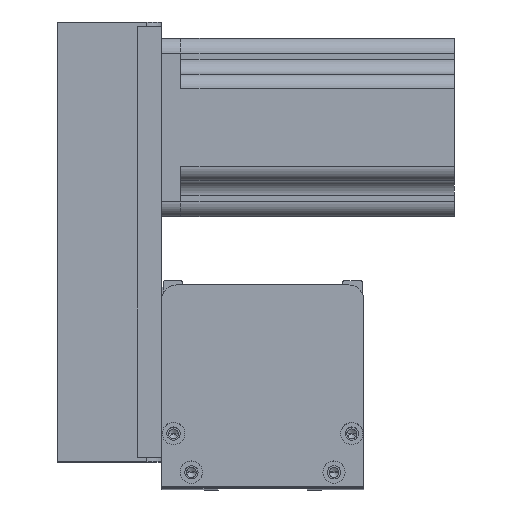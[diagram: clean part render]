
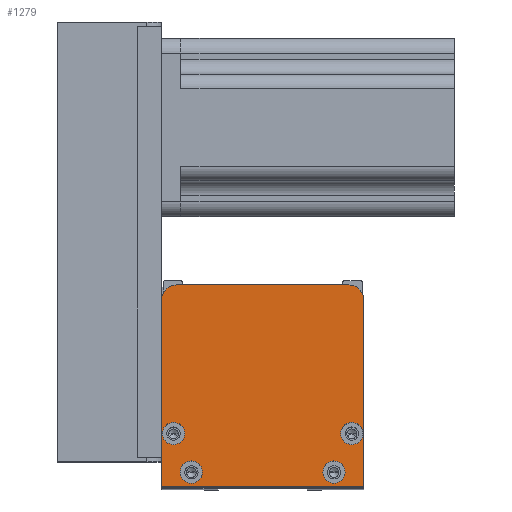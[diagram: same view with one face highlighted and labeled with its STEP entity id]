
A CAD part, top view. The second image highlights one B-rep face of the part: STEP entity #1279.
In plain terms, the highlighted planar face has unit normal (0, 0, 1) as drawn and (0, 0, -1) by its records, which use the part's own axes.
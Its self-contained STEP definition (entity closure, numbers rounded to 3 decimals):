
#50 = CARTESIAN_POINT ( 'NONE',  ( 0.25, 18., 0. ) ) ;
#111 = DIRECTION ( 'NONE',  ( 1., 0., 0. ) ) ;
#195 = EDGE_CURVE ( 'NONE', #14179, #23772, #6618, .T. ) ;
#242 = AXIS2_PLACEMENT_3D ( 'NONE', #729, #13699, #15826 ) ;
#722 = CARTESIAN_POINT ( 'NONE',  ( 68., 0., 0. ) ) ;
#729 = CARTESIAN_POINT ( 'NONE',  ( 63., 63., 0. ) ) ;
#804 = FACE_BOUND ( 'NONE', #20900, .T. ) ;
#842 = VERTEX_POINT ( 'NONE', #4991 ) ;
#1097 = VERTEX_POINT ( 'NONE', #21710 ) ;
#1279 = ADVANCED_FACE ( 'NONE', ( #2574, #804, #6385, #13428, #9869 ), #9552, .F. ) ;
#1364 = CARTESIAN_POINT ( 'NONE',  ( 63., 68., 0. ) ) ;
#1366 = CARTESIAN_POINT ( 'NONE',  ( 0., 0., 0. ) ) ;
#1971 = LINE ( 'NONE', #15690, #12844 ) ;
#2014 = DIRECTION ( 'NONE',  ( 0., 0., -1. ) ) ;
#2167 = EDGE_LOOP ( 'NONE', ( #7457, #4492 ) ) ;
#2266 = VERTEX_POINT ( 'NONE', #22104 ) ;
#2473 = ORIENTED_EDGE ( 'NONE', *, *, #195, .F. ) ;
#2501 = AXIS2_PLACEMENT_3D ( 'NONE', #22787, #15054, #9628 ) ;
#2574 = FACE_BOUND ( 'NONE', #22356, .T. ) ;
#2889 = ORIENTED_EDGE ( 'NONE', *, *, #10527, .F. ) ;
#2919 = EDGE_CURVE ( 'NONE', #11693, #20557, #14547, .T. ) ;
#2930 = EDGE_CURVE ( 'NONE', #15633, #5020, #9562, .T. ) ;
#3208 = AXIS2_PLACEMENT_3D ( 'NONE', #22966, #2014, #22803 ) ;
#3231 = DIRECTION ( 'NONE',  ( 0., 0., -1. ) ) ;
#3304 = CIRCLE ( 'NONE', #16455, 3.75 ) ;
#3601 = DIRECTION ( 'NONE',  ( -1., 0., 0. ) ) ;
#4089 = AXIS2_PLACEMENT_3D ( 'NONE', #21695, #10459, #18009 ) ;
#4216 = EDGE_CURVE ( 'NONE', #842, #16079, #3304, .T. ) ;
#4492 = ORIENTED_EDGE ( 'NONE', *, *, #17359, .F. ) ;
#4943 = CARTESIAN_POINT ( 'NONE',  ( 5., 63., 0. ) ) ;
#4991 = CARTESIAN_POINT ( 'NONE',  ( 6.25, 5., 0. ) ) ;
#5020 = VERTEX_POINT ( 'NONE', #11012 ) ;
#5174 = DIRECTION ( 'NONE',  ( 0., 0., -1. ) ) ;
#5278 = CIRCLE ( 'NONE', #3208, 3.75 ) ;
#5321 = EDGE_CURVE ( 'NONE', #20669, #1097, #7598, .T. ) ;
#5342 = DIRECTION ( 'NONE',  ( 1., 0., 0. ) ) ;
#6247 = EDGE_CURVE ( 'NONE', #17768, #5020, #1971, .T. ) ;
#6385 = FACE_BOUND ( 'NONE', #2167, .T. ) ;
#6618 = CIRCLE ( 'NONE', #4089, 3.75 ) ;
#6846 = DIRECTION ( 'NONE',  ( 1., 0., 0. ) ) ;
#7056 = ORIENTED_EDGE ( 'NONE', *, *, #12737, .F. ) ;
#7075 = CARTESIAN_POINT ( 'NONE',  ( 5., 68., 0. ) ) ;
#7096 = EDGE_CURVE ( 'NONE', #15633, #9650, #10720, .T. ) ;
#7221 = DIRECTION ( 'NONE',  ( -1., 0., 0. ) ) ;
#7457 = ORIENTED_EDGE ( 'NONE', *, *, #4216, .F. ) ;
#7598 = CIRCLE ( 'NONE', #9708, 3.75 ) ;
#7849 = AXIS2_PLACEMENT_3D ( 'NONE', #20615, #22251, #3601 ) ;
#8076 = CARTESIAN_POINT ( 'NONE',  ( 13.75, 5., 0. ) ) ;
#8155 = AXIS2_PLACEMENT_3D ( 'NONE', #23443, #8465, #14113 ) ;
#8284 = EDGE_LOOP ( 'NONE', ( #13421, #9591, #21667, #14129, #17183, #11463 ) ) ;
#8294 = DIRECTION ( 'NONE',  ( -1., 0., 0. ) ) ;
#8465 = DIRECTION ( 'NONE',  ( 0., 0., -1. ) ) ;
#9552 = PLANE ( 'NONE',  #9828 ) ;
#9562 = CIRCLE ( 'NONE', #242, 5. ) ;
#9591 = ORIENTED_EDGE ( 'NONE', *, *, #14036, .T. ) ;
#9628 = DIRECTION ( 'NONE',  ( -1., 0., 0. ) ) ;
#9650 = VERTEX_POINT ( 'NONE', #7075 ) ;
#9708 = AXIS2_PLACEMENT_3D ( 'NONE', #21281, #11970, #8294 ) ;
#9828 = AXIS2_PLACEMENT_3D ( 'NONE', #15374, #20733, #111 ) ;
#9869 = FACE_OUTER_BOUND ( 'NONE', #8284, .T. ) ;
#9872 = VECTOR ( 'NONE', #13535, 1000. ) ;
#9944 = CARTESIAN_POINT ( 'NONE',  ( 0., 63., 0. ) ) ;
#10459 = DIRECTION ( 'NONE',  ( 0., 0., -1. ) ) ;
#10527 = EDGE_CURVE ( 'NONE', #1097, #20669, #5278, .T. ) ;
#10720 = LINE ( 'NONE', #13591, #14845 ) ;
#11012 = CARTESIAN_POINT ( 'NONE',  ( 68., 63., 0. ) ) ;
#11345 = VECTOR ( 'NONE', #5342, 1000. ) ;
#11389 = AXIS2_PLACEMENT_3D ( 'NONE', #14774, #5174, #7221 ) ;
#11463 = ORIENTED_EDGE ( 'NONE', *, *, #16443, .F. ) ;
#11693 = VERTEX_POINT ( 'NONE', #9944 ) ;
#11970 = DIRECTION ( 'NONE',  ( 0., 0., -1. ) ) ;
#12226 = EDGE_CURVE ( 'NONE', #2266, #21971, #18312, .T. ) ;
#12737 = EDGE_CURVE ( 'NONE', #23772, #14179, #21514, .T. ) ;
#12844 = VECTOR ( 'NONE', #19645, 1000. ) ;
#13290 = CIRCLE ( 'NONE', #8155, 3.75 ) ;
#13421 = ORIENTED_EDGE ( 'NONE', *, *, #2919, .F. ) ;
#13428 = FACE_BOUND ( 'NONE', #21798, .T. ) ;
#13535 = DIRECTION ( 'NONE',  ( 0., -1., 0. ) ) ;
#13591 = CARTESIAN_POINT ( 'NONE',  ( 68., 68., 0. ) ) ;
#13699 = DIRECTION ( 'NONE',  ( 0., 0., -1. ) ) ;
#14036 = EDGE_CURVE ( 'NONE', #11693, #9650, #16162, .T. ) ;
#14113 = DIRECTION ( 'NONE',  ( -1., 0., 0. ) ) ;
#14129 = ORIENTED_EDGE ( 'NONE', *, *, #2930, .T. ) ;
#14179 = VERTEX_POINT ( 'NONE', #14789 ) ;
#14324 = CARTESIAN_POINT ( 'NONE',  ( 10., 5., 0. ) ) ;
#14547 = LINE ( 'NONE', #22759, #9872 ) ;
#14686 = CARTESIAN_POINT ( 'NONE',  ( 68., 0., 0. ) ) ;
#14774 = CARTESIAN_POINT ( 'NONE',  ( 10., 5., 0. ) ) ;
#14789 = CARTESIAN_POINT ( 'NONE',  ( 7.75, 18., 0. ) ) ;
#14845 = VECTOR ( 'NONE', #19207, 1000. ) ;
#15054 = DIRECTION ( 'NONE',  ( 0., 0., -1. ) ) ;
#15374 = CARTESIAN_POINT ( 'NONE',  ( 0., 0., 0. ) ) ;
#15633 = VERTEX_POINT ( 'NONE', #1364 ) ;
#15690 = CARTESIAN_POINT ( 'NONE',  ( 68., 0., 0. ) ) ;
#15826 = DIRECTION ( 'NONE',  ( 1., 0., 0. ) ) ;
#16051 = AXIS2_PLACEMENT_3D ( 'NONE', #4943, #18097, #6846 ) ;
#16069 = DIRECTION ( 'NONE',  ( -1., 0., 0. ) ) ;
#16079 = VERTEX_POINT ( 'NONE', #8076 ) ;
#16162 = CIRCLE ( 'NONE', #16051, 5. ) ;
#16443 = EDGE_CURVE ( 'NONE', #20557, #17768, #21342, .T. ) ;
#16455 = AXIS2_PLACEMENT_3D ( 'NONE', #14324, #3231, #16069 ) ;
#17123 = ORIENTED_EDGE ( 'NONE', *, *, #21320, .F. ) ;
#17183 = ORIENTED_EDGE ( 'NONE', *, *, #6247, .F. ) ;
#17359 = EDGE_CURVE ( 'NONE', #16079, #842, #20458, .T. ) ;
#17768 = VERTEX_POINT ( 'NONE', #722 ) ;
#18009 = DIRECTION ( 'NONE',  ( -1., 0., 0. ) ) ;
#18097 = DIRECTION ( 'NONE',  ( 0., 0., -1. ) ) ;
#18312 = CIRCLE ( 'NONE', #2501, 3.75 ) ;
#19207 = DIRECTION ( 'NONE',  ( -1., 0., 0. ) ) ;
#19645 = DIRECTION ( 'NONE',  ( 0., 1., 0. ) ) ;
#20458 = CIRCLE ( 'NONE', #11389, 3.75 ) ;
#20557 = VERTEX_POINT ( 'NONE', #1366 ) ;
#20615 = CARTESIAN_POINT ( 'NONE',  ( 4., 18., 0. ) ) ;
#20669 = VERTEX_POINT ( 'NONE', #24300 ) ;
#20733 = DIRECTION ( 'NONE',  ( 0., 0., 1. ) ) ;
#20900 = EDGE_LOOP ( 'NONE', ( #7056, #2473 ) ) ;
#21281 = CARTESIAN_POINT ( 'NONE',  ( 64., 18., 0. ) ) ;
#21320 = EDGE_CURVE ( 'NONE', #21971, #2266, #13290, .T. ) ;
#21342 = LINE ( 'NONE', #14686, #11345 ) ;
#21492 = CARTESIAN_POINT ( 'NONE',  ( 61.75, 5., 0. ) ) ;
#21514 = CIRCLE ( 'NONE', #7849, 3.75 ) ;
#21667 = ORIENTED_EDGE ( 'NONE', *, *, #7096, .F. ) ;
#21695 = CARTESIAN_POINT ( 'NONE',  ( 4., 18., 0. ) ) ;
#21710 = CARTESIAN_POINT ( 'NONE',  ( 67.75, 18., 0. ) ) ;
#21798 = EDGE_LOOP ( 'NONE', ( #21934, #17123 ) ) ;
#21934 = ORIENTED_EDGE ( 'NONE', *, *, #12226, .F. ) ;
#21971 = VERTEX_POINT ( 'NONE', #21492 ) ;
#22104 = CARTESIAN_POINT ( 'NONE',  ( 54.25, 5., 0. ) ) ;
#22125 = ORIENTED_EDGE ( 'NONE', *, *, #5321, .F. ) ;
#22251 = DIRECTION ( 'NONE',  ( 0., 0., -1. ) ) ;
#22356 = EDGE_LOOP ( 'NONE', ( #22125, #2889 ) ) ;
#22759 = CARTESIAN_POINT ( 'NONE',  ( 0., 0., 0. ) ) ;
#22787 = CARTESIAN_POINT ( 'NONE',  ( 58., 5., 0. ) ) ;
#22803 = DIRECTION ( 'NONE',  ( -1., 0., 0. ) ) ;
#22966 = CARTESIAN_POINT ( 'NONE',  ( 64., 18., 0. ) ) ;
#23443 = CARTESIAN_POINT ( 'NONE',  ( 58., 5., 0. ) ) ;
#23772 = VERTEX_POINT ( 'NONE', #50 ) ;
#24300 = CARTESIAN_POINT ( 'NONE',  ( 60.25, 18., 0. ) ) ;
